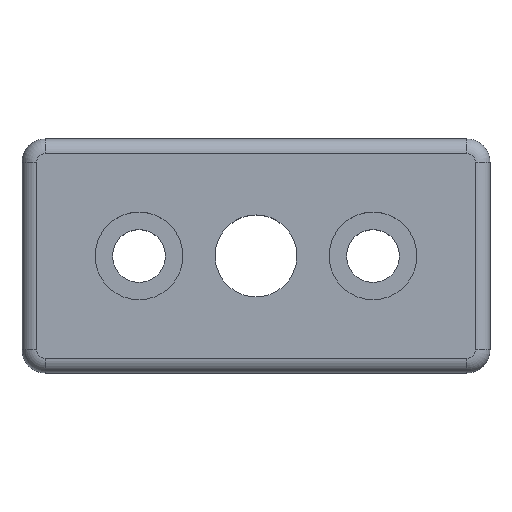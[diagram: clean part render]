
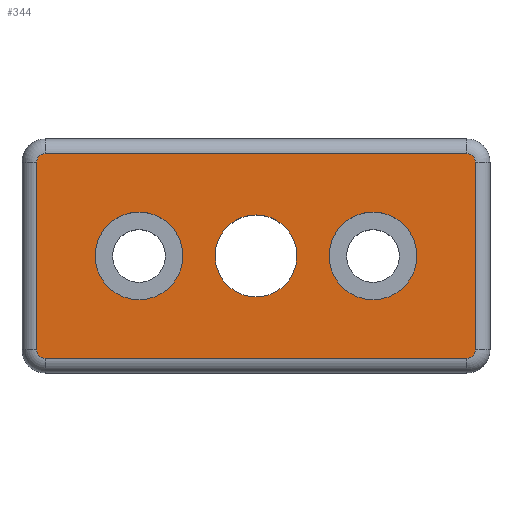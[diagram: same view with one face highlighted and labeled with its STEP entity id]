
A CAD part, top view. The second image highlights one B-rep face of the part: STEP entity #344.
In plain terms, the highlighted planar face has unit normal (0, 0, 1).
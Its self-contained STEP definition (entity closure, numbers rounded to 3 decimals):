
#18 = VERTEX_POINT ( 'NONE', #199 ) ;
#20 = AXIS2_PLACEMENT_3D ( 'NONE', #859, #181, #196 ) ;
#23 = ORIENTED_EDGE ( 'NONE', *, *, #294, .F. ) ;
#27 = CARTESIAN_POINT ( 'NONE',  ( 0., 0., 16. ) ) ;
#34 = ORIENTED_EDGE ( 'NONE', *, *, #935, .T. ) ;
#36 = CARTESIAN_POINT ( 'NONE',  ( -20., 0., 16. ) ) ;
#43 = EDGE_CURVE ( 'NONE', #634, #836, #712, .T. ) ;
#45 = CARTESIAN_POINT ( 'NONE',  ( -36., 17.5, 16. ) ) ;
#55 = CARTESIAN_POINT ( 'NONE',  ( -20., 0., 16. ) ) ;
#73 = CARTESIAN_POINT ( 'NONE',  ( -37.5, -16., 16. ) ) ;
#81 = LINE ( 'NONE', #894, #887 ) ;
#82 = CARTESIAN_POINT ( 'NONE',  ( -7., 0., 16. ) ) ;
#83 = EDGE_CURVE ( 'NONE', #929, #769, #828, .T. ) ;
#96 = CARTESIAN_POINT ( 'NONE',  ( -36., 17.5, 16. ) ) ;
#100 = ORIENTED_EDGE ( 'NONE', *, *, #43, .F. ) ;
#101 = LINE ( 'NONE', #680, #760 ) ;
#102 = DIRECTION ( 'NONE',  ( 0., 0., -1. ) ) ;
#109 = AXIS2_PLACEMENT_3D ( 'NONE', #898, #744, #595 ) ;
#146 = CARTESIAN_POINT ( 'NONE',  ( 12.5, 0., 16. ) ) ;
#151 = VERTEX_POINT ( 'NONE', #82 ) ;
#158 = VERTEX_POINT ( 'NONE', #163 ) ;
#161 = CARTESIAN_POINT ( 'NONE',  ( 37.5, 16., 16. ) ) ;
#163 = CARTESIAN_POINT ( 'NONE',  ( -36., -17.5, 16. ) ) ;
#181 = DIRECTION ( 'NONE',  ( 0., 0., 1. ) ) ;
#184 = DIRECTION ( 'NONE',  ( 0., 0., 1. ) ) ;
#187 = CARTESIAN_POINT ( 'NONE',  ( -37.5, 16., 16. ) ) ;
#193 = DIRECTION ( 'NONE',  ( 0., 0., 1. ) ) ;
#196 = DIRECTION ( 'NONE',  ( 1., 0., 0. ) ) ;
#199 = CARTESIAN_POINT ( 'NONE',  ( 7., 0., 16. ) ) ;
#200 = EDGE_CURVE ( 'NONE', #836, #634, #363, .T. ) ;
#207 = ORIENTED_EDGE ( 'NONE', *, *, #83, .T. ) ;
#213 = EDGE_LOOP ( 'NONE', ( #286, #236 ) ) ;
#231 = AXIS2_PLACEMENT_3D ( 'NONE', #27, #915, #487 ) ;
#236 = ORIENTED_EDGE ( 'NONE', *, *, #256, .T. ) ;
#238 = FACE_BOUND ( 'NONE', #705, .T. ) ;
#240 = EDGE_LOOP ( 'NONE', ( #908, #534, #649, #380, #840, #34, #207, #456 ) ) ;
#243 = DIRECTION ( 'NONE',  ( 0., 0., 1. ) ) ;
#244 = EDGE_CURVE ( 'NONE', #151, #18, #888, .T. ) ;
#256 = EDGE_CURVE ( 'NONE', #18, #151, #623, .T. ) ;
#270 = EDGE_CURVE ( 'NONE', #602, #558, #730, .T. ) ;
#272 = VERTEX_POINT ( 'NONE', #96 ) ;
#275 = DIRECTION ( 'NONE',  ( 0., -1., 0. ) ) ;
#276 = CIRCLE ( 'NONE', #323, 7.5 ) ;
#280 = CIRCLE ( 'NONE', #682, 1.5 ) ;
#286 = ORIENTED_EDGE ( 'NONE', *, *, #244, .T. ) ;
#294 = EDGE_CURVE ( 'NONE', #830, #944, #749, .T. ) ;
#307 = CIRCLE ( 'NONE', #740, 1.5 ) ;
#308 = CARTESIAN_POINT ( 'NONE',  ( 0., 0., 16. ) ) ;
#311 = AXIS2_PLACEMENT_3D ( 'NONE', #36, #243, #848 ) ;
#315 = CARTESIAN_POINT ( 'NONE',  ( 37.5, -16., 16. ) ) ;
#317 = ORIENTED_EDGE ( 'NONE', *, *, #954, .F. ) ;
#323 = AXIS2_PLACEMENT_3D ( 'NONE', #55, #193, #429 ) ;
#335 = DIRECTION ( 'NONE',  ( 0., 1., 0. ) ) ;
#338 = VERTEX_POINT ( 'NONE', #315 ) ;
#344 = ADVANCED_FACE ( 'NONE', ( #912, #463, #238, #472 ), #550, .T. ) ;
#356 = DIRECTION ( 'NONE',  ( 1., 0., 0. ) ) ;
#363 = CIRCLE ( 'NONE', #905, 7.5 ) ;
#380 = ORIENTED_EDGE ( 'NONE', *, *, #270, .T. ) ;
#386 = EDGE_LOOP ( 'NONE', ( #317, #23 ) ) ;
#407 = VECTOR ( 'NONE', #275, 1000. ) ;
#415 = CARTESIAN_POINT ( 'NONE',  ( -27.5, 0., 16. ) ) ;
#421 = CARTESIAN_POINT ( 'NONE',  ( 36., -17.5, 16. ) ) ;
#429 = DIRECTION ( 'NONE',  ( 1., 0., 0. ) ) ;
#455 = EDGE_CURVE ( 'NONE', #769, #158, #280, .T. ) ;
#456 = ORIENTED_EDGE ( 'NONE', *, *, #455, .T. ) ;
#462 = CARTESIAN_POINT ( 'NONE',  ( -37.5, -16., 16. ) ) ;
#463 = FACE_BOUND ( 'NONE', #386, .T. ) ;
#469 = EDGE_CURVE ( 'NONE', #558, #272, #809, .T. ) ;
#470 = ORIENTED_EDGE ( 'NONE', *, *, #200, .F. ) ;
#472 = FACE_BOUND ( 'NONE', #213, .T. ) ;
#479 = VERTEX_POINT ( 'NONE', #421 ) ;
#487 = DIRECTION ( 'NONE',  ( -1., 0., 0. ) ) ;
#521 = CARTESIAN_POINT ( 'NONE',  ( 36., 17.5, 16. ) ) ;
#534 = ORIENTED_EDGE ( 'NONE', *, *, #568, .T. ) ;
#536 = DIRECTION ( 'NONE',  ( 1., 0., 0. ) ) ;
#540 = DIRECTION ( 'NONE',  ( -1., 0., 0. ) ) ;
#550 = PLANE ( 'NONE',  #829 ) ;
#555 = CARTESIAN_POINT ( 'NONE',  ( 36., 16., 16. ) ) ;
#558 = VERTEX_POINT ( 'NONE', #521 ) ;
#561 = DIRECTION ( 'NONE',  ( -1., 0., 0. ) ) ;
#562 = EDGE_CURVE ( 'NONE', #158, #479, #81, .T. ) ;
#568 = EDGE_CURVE ( 'NONE', #479, #338, #591, .T. ) ;
#589 = DIRECTION ( 'NONE',  ( 1., 0., 0. ) ) ;
#591 = CIRCLE ( 'NONE', #109, 1.5 ) ;
#594 = AXIS2_PLACEMENT_3D ( 'NONE', #308, #102, #540 ) ;
#595 = DIRECTION ( 'NONE',  ( 1., 0., 0. ) ) ;
#596 = CARTESIAN_POINT ( 'NONE',  ( 20., 0., 16. ) ) ;
#602 = VERTEX_POINT ( 'NONE', #161 ) ;
#608 = AXIS2_PLACEMENT_3D ( 'NONE', #555, #184, #630 ) ;
#623 = CIRCLE ( 'NONE', #231, 7. ) ;
#630 = DIRECTION ( 'NONE',  ( 1., 0., 0. ) ) ;
#634 = VERTEX_POINT ( 'NONE', #146 ) ;
#649 = ORIENTED_EDGE ( 'NONE', *, *, #725, .T. ) ;
#680 = CARTESIAN_POINT ( 'NONE',  ( 37.5, 16., 16. ) ) ;
#682 = AXIS2_PLACEMENT_3D ( 'NONE', #704, #804, #958 ) ;
#703 = DIRECTION ( 'NONE',  ( 0., 0., 1. ) ) ;
#704 = CARTESIAN_POINT ( 'NONE',  ( -36., -16., 16. ) ) ;
#705 = EDGE_LOOP ( 'NONE', ( #470, #100 ) ) ;
#712 = CIRCLE ( 'NONE', #20, 7.5 ) ;
#713 = CARTESIAN_POINT ( 'NONE',  ( -12.5, 0., 16. ) ) ;
#725 = EDGE_CURVE ( 'NONE', #338, #602, #101, .T. ) ;
#730 = CIRCLE ( 'NONE', #608, 1.5 ) ;
#740 = AXIS2_PLACEMENT_3D ( 'NONE', #862, #703, #356 ) ;
#744 = DIRECTION ( 'NONE',  ( 0., 0., 1. ) ) ;
#748 = DIRECTION ( 'NONE',  ( 0., 0., 1. ) ) ;
#749 = CIRCLE ( 'NONE', #311, 7.5 ) ;
#760 = VECTOR ( 'NONE', #335, 1000. ) ;
#763 = CARTESIAN_POINT ( 'NONE',  ( 0., 0., 16. ) ) ;
#764 = VECTOR ( 'NONE', #561, 1000. ) ;
#769 = VERTEX_POINT ( 'NONE', #462 ) ;
#804 = DIRECTION ( 'NONE',  ( 0., 0., 1. ) ) ;
#809 = LINE ( 'NONE', #45, #764 ) ;
#828 = LINE ( 'NONE', #73, #407 ) ;
#829 = AXIS2_PLACEMENT_3D ( 'NONE', #763, #842, #536 ) ;
#830 = VERTEX_POINT ( 'NONE', #415 ) ;
#836 = VERTEX_POINT ( 'NONE', #871 ) ;
#840 = ORIENTED_EDGE ( 'NONE', *, *, #469, .T. ) ;
#842 = DIRECTION ( 'NONE',  ( 0., 0., 1. ) ) ;
#848 = DIRECTION ( 'NONE',  ( 1., 0., 0. ) ) ;
#859 = CARTESIAN_POINT ( 'NONE',  ( 20., 0., 16. ) ) ;
#862 = CARTESIAN_POINT ( 'NONE',  ( -36., 16., 16. ) ) ;
#871 = CARTESIAN_POINT ( 'NONE',  ( 27.5, 0., 16. ) ) ;
#887 = VECTOR ( 'NONE', #589, 1000. ) ;
#888 = CIRCLE ( 'NONE', #594, 7. ) ;
#890 = DIRECTION ( 'NONE',  ( 1., 0., 0. ) ) ;
#894 = CARTESIAN_POINT ( 'NONE',  ( 36., -17.5, 16. ) ) ;
#898 = CARTESIAN_POINT ( 'NONE',  ( 36., -16., 16. ) ) ;
#905 = AXIS2_PLACEMENT_3D ( 'NONE', #596, #748, #890 ) ;
#908 = ORIENTED_EDGE ( 'NONE', *, *, #562, .T. ) ;
#912 = FACE_OUTER_BOUND ( 'NONE', #240, .T. ) ;
#915 = DIRECTION ( 'NONE',  ( 0., 0., -1. ) ) ;
#929 = VERTEX_POINT ( 'NONE', #187 ) ;
#935 = EDGE_CURVE ( 'NONE', #272, #929, #307, .T. ) ;
#944 = VERTEX_POINT ( 'NONE', #713 ) ;
#954 = EDGE_CURVE ( 'NONE', #944, #830, #276, .T. ) ;
#958 = DIRECTION ( 'NONE',  ( 1., 0., 0. ) ) ;
